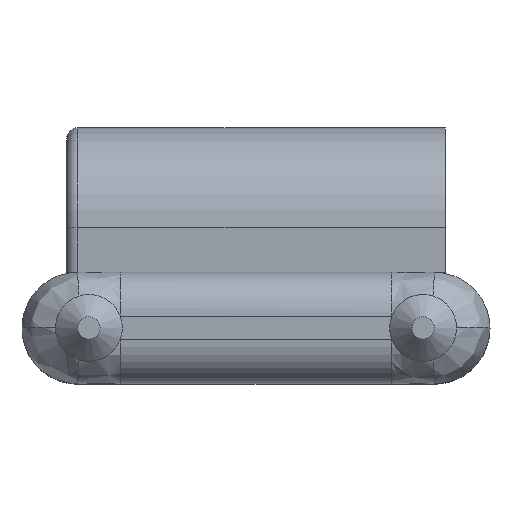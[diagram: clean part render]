
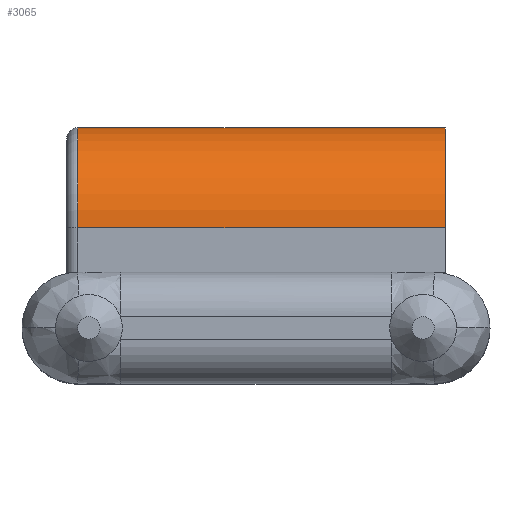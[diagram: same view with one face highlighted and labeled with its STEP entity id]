
A CAD part, top view. The second image highlights one B-rep face of the part: STEP entity #3065.
In plain terms, the highlighted cylindrical face has radius 2.286 mm (diameter 4.572 mm), a partial arc.
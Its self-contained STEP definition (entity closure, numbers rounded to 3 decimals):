
#1078 = PLANE('',#1079);
#1079 = AXIS2_PLACEMENT_3D('',#1080,#1081,#1082);
#1080 = CARTESIAN_POINT('',(-4.318,1.27,2.159));
#1081 = DIRECTION('',(0.,0.,1.));
#1082 = DIRECTION('',(0.,1.,0.));
#1132 = PLANE('',#1133);
#1133 = AXIS2_PLACEMENT_3D('',#1134,#1135,#1136);
#1134 = CARTESIAN_POINT('',(-4.318,2.286,6.731));
#1135 = DIRECTION('',(0.,0.,-1.));
#1136 = DIRECTION('',(0.,-1.,0.));
#2331 = EDGE_CURVE('',#2332,#2334,#2336,.T.);
#2332 = VERTEX_POINT('',#2333);
#2333 = CARTESIAN_POINT('',(-4.064,2.286,2.159));
#2334 = VERTEX_POINT('',#2335);
#2335 = CARTESIAN_POINT('',(4.318,2.286,2.159));
#2336 = SURFACE_CURVE('',#2337,(#2341,#2348),.PCURVE_S1.);
#2337 = LINE('',#2338,#2339);
#2338 = CARTESIAN_POINT('',(-4.318,2.286,2.159));
#2339 = VECTOR('',#2340,1.);
#2340 = DIRECTION('',(1.,0.,0.));
#2341 = PCURVE('',#1078,#2342);
#2342 = DEFINITIONAL_REPRESENTATION('',(#2343),#2347);
#2343 = LINE('',#2344,#2345);
#2344 = CARTESIAN_POINT('',(1.016,0.));
#2345 = VECTOR('',#2346,1.);
#2346 = DIRECTION('',(0.,-1.));
#2347 = ( GEOMETRIC_REPRESENTATION_CONTEXT(2) 
PARAMETRIC_REPRESENTATION_CONTEXT() REPRESENTATION_CONTEXT('2D SPACE',''
  ) );
#2348 = PCURVE('',#2349,#2354);
#2349 = CYLINDRICAL_SURFACE('',#2350,2.286);
#2350 = AXIS2_PLACEMENT_3D('',#2351,#2352,#2353);
#2351 = CARTESIAN_POINT('',(-4.318,2.286,4.445));
#2352 = DIRECTION('',(-1.,0.,0.));
#2353 = DIRECTION('',(0.,1.,0.));
#2354 = DEFINITIONAL_REPRESENTATION('',(#2355),#2359);
#2355 = LINE('',#2356,#2357);
#2356 = CARTESIAN_POINT('',(-4.712,0.));
#2357 = VECTOR('',#2358,1.);
#2358 = DIRECTION('',(-0.,-1.));
#2359 = ( GEOMETRIC_REPRESENTATION_CONTEXT(2) 
PARAMETRIC_REPRESENTATION_CONTEXT() REPRESENTATION_CONTEXT('2D SPACE',''
  ) );
#2420 = PLANE('',#2421);
#2421 = AXIS2_PLACEMENT_3D('',#2422,#2423,#2424);
#2422 = CARTESIAN_POINT('',(4.318,2.537,4.445));
#2423 = DIRECTION('',(1.,0.,0.));
#2424 = DIRECTION('',(0.,0.,1.));
#2584 = EDGE_CURVE('',#2585,#2587,#2589,.T.);
#2585 = VERTEX_POINT('',#2586);
#2586 = CARTESIAN_POINT('',(-4.064,2.286,6.731));
#2587 = VERTEX_POINT('',#2588);
#2588 = CARTESIAN_POINT('',(4.318,2.286,6.731));
#2589 = SURFACE_CURVE('',#2590,(#2594,#2601),.PCURVE_S1.);
#2590 = LINE('',#2591,#2592);
#2591 = CARTESIAN_POINT('',(-4.318,2.286,6.731));
#2592 = VECTOR('',#2593,1.);
#2593 = DIRECTION('',(1.,0.,0.));
#2594 = PCURVE('',#1132,#2595);
#2595 = DEFINITIONAL_REPRESENTATION('',(#2596),#2600);
#2596 = LINE('',#2597,#2598);
#2597 = CARTESIAN_POINT('',(0.,0.));
#2598 = VECTOR('',#2599,1.);
#2599 = DIRECTION('',(0.,-1.));
#2600 = ( GEOMETRIC_REPRESENTATION_CONTEXT(2) 
PARAMETRIC_REPRESENTATION_CONTEXT() REPRESENTATION_CONTEXT('2D SPACE',''
  ) );
#2601 = PCURVE('',#2349,#2602);
#2602 = DEFINITIONAL_REPRESENTATION('',(#2603),#2607);
#2603 = LINE('',#2604,#2605);
#2604 = CARTESIAN_POINT('',(-7.854,0.));
#2605 = VECTOR('',#2606,1.);
#2606 = DIRECTION('',(-0.,-1.));
#2607 = ( GEOMETRIC_REPRESENTATION_CONTEXT(2) 
PARAMETRIC_REPRESENTATION_CONTEXT() REPRESENTATION_CONTEXT('2D SPACE',''
  ) );
#2746 = TOROIDAL_SURFACE('',#2747,2.032,0.254);
#2747 = AXIS2_PLACEMENT_3D('',#2748,#2749,#2750);
#2748 = CARTESIAN_POINT('',(-4.064,2.286,4.445));
#2749 = DIRECTION('',(-1.,0.,0.));
#2750 = DIRECTION('',(0.,0.,-1.));
#3065 = ADVANCED_FACE('',(#3066),#2349,.T.);
#3066 = FACE_BOUND('',#3067,.F.);
#3067 = EDGE_LOOP('',(#3068,#3069,#3091,#3092));
#3068 = ORIENTED_EDGE('',*,*,#2331,.T.);
#3069 = ORIENTED_EDGE('',*,*,#3070,.T.);
#3070 = EDGE_CURVE('',#2334,#2587,#3071,.T.);
#3071 = SURFACE_CURVE('',#3072,(#3077,#3084),.PCURVE_S1.);
#3072 = CIRCLE('',#3073,2.286);
#3073 = AXIS2_PLACEMENT_3D('',#3074,#3075,#3076);
#3074 = CARTESIAN_POINT('',(4.318,2.286,4.445));
#3075 = DIRECTION('',(1.,0.,0.));
#3076 = DIRECTION('',(0.,1.,0.));
#3077 = PCURVE('',#2349,#3078);
#3078 = DEFINITIONAL_REPRESENTATION('',(#3079),#3083);
#3079 = LINE('',#3080,#3081);
#3080 = CARTESIAN_POINT('',(-0.,-8.636));
#3081 = VECTOR('',#3082,1.);
#3082 = DIRECTION('',(-1.,0.));
#3083 = ( GEOMETRIC_REPRESENTATION_CONTEXT(2) 
PARAMETRIC_REPRESENTATION_CONTEXT() REPRESENTATION_CONTEXT('2D SPACE',''
  ) );
#3084 = PCURVE('',#2420,#3085);
#3085 = DEFINITIONAL_REPRESENTATION('',(#3086),#3090);
#3086 = CIRCLE('',#3087,2.286);
#3087 = AXIS2_PLACEMENT_2D('',#3088,#3089);
#3088 = CARTESIAN_POINT('',(0.,0.251));
#3089 = DIRECTION('',(0.,-1.));
#3090 = ( GEOMETRIC_REPRESENTATION_CONTEXT(2) 
PARAMETRIC_REPRESENTATION_CONTEXT() REPRESENTATION_CONTEXT('2D SPACE',''
  ) );
#3091 = ORIENTED_EDGE('',*,*,#2584,.F.);
#3092 = ORIENTED_EDGE('',*,*,#3093,.F.);
#3093 = EDGE_CURVE('',#2332,#2585,#3094,.T.);
#3094 = SURFACE_CURVE('',#3095,(#3100,#3107),.PCURVE_S1.);
#3095 = CIRCLE('',#3096,2.286);
#3096 = AXIS2_PLACEMENT_3D('',#3097,#3098,#3099);
#3097 = CARTESIAN_POINT('',(-4.064,2.286,4.445));
#3098 = DIRECTION('',(1.,0.,0.));
#3099 = DIRECTION('',(0.,0.,-1.));
#3100 = PCURVE('',#2349,#3101);
#3101 = DEFINITIONAL_REPRESENTATION('',(#3102),#3106);
#3102 = LINE('',#3103,#3104);
#3103 = CARTESIAN_POINT('',(-4.712,-0.254));
#3104 = VECTOR('',#3105,1.);
#3105 = DIRECTION('',(-1.,0.));
#3106 = ( GEOMETRIC_REPRESENTATION_CONTEXT(2) 
PARAMETRIC_REPRESENTATION_CONTEXT() REPRESENTATION_CONTEXT('2D SPACE',''
  ) );
#3107 = PCURVE('',#2746,#3108);
#3108 = DEFINITIONAL_REPRESENTATION('',(#3109),#3113);
#3109 = LINE('',#3110,#3111);
#3110 = CARTESIAN_POINT('',(-0.,0.));
#3111 = VECTOR('',#3112,1.);
#3112 = DIRECTION('',(-1.,0.));
#3113 = ( GEOMETRIC_REPRESENTATION_CONTEXT(2) 
PARAMETRIC_REPRESENTATION_CONTEXT() REPRESENTATION_CONTEXT('2D SPACE',''
  ) );
